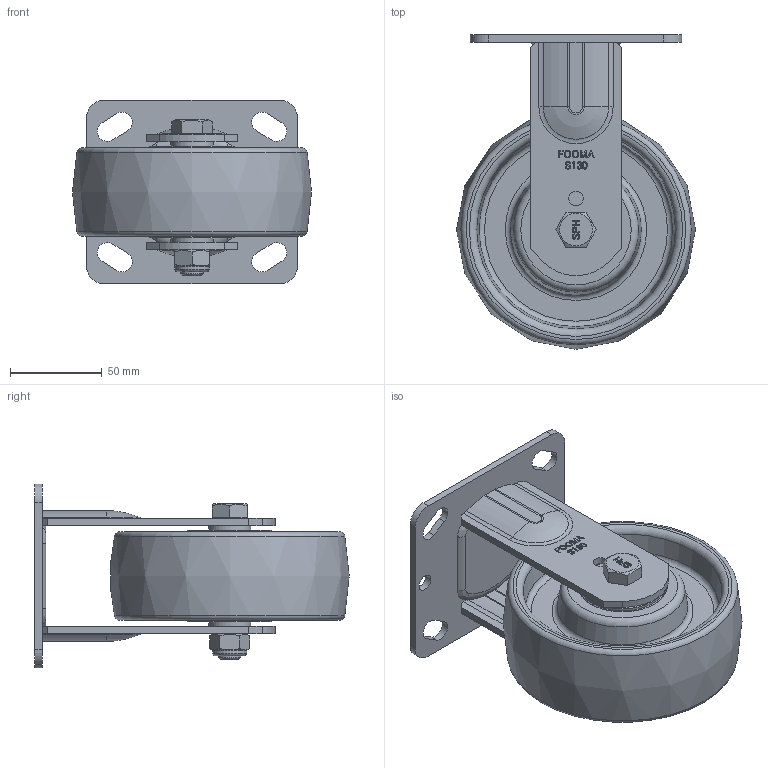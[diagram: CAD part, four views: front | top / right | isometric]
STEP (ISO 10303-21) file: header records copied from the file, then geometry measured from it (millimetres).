
FILE_DESCRIPTION(/* description */ (''),/* implementation_level */ '2;1');
FILE_NAME(/* name */ '\\192.168.10.38\지덕공유\1.기술연구소\2.연구개발 진행중\124.SPH-Series_중하중_2025.02.11\1.도면\2. 3D\홈페이지용\SPH-130-ARF-NYD.stp',/* time_stamp */ '2026-05-19T07:50:01+09:00',/* author */ ('admin'),/* organization */ ('지덕산업'),/* preprocessor_version */ 'ST-DEVELOPER v18.1',/* originating_system */ 'Autodesk Inventor 2021',/* authorisation */ '');
FILE_SCHEMA (('AUTOMOTIVE_DESIGN { 1 0 10303 214 3 1 1 }'));
Length unit declared in the file: millimetre
Products named in the file (1): SPH-130-ARF-NYD
Bounding box: 130 x 171 x 100 mm (x, y, z)
Volume: 544716.9 mm3; surface area: 108549.6 mm2
Topology: 1 solids, 1 shells, 1038 faces, 2819 edges, 1869 vertices
Faces by surface type: plane 466, bspline 466, cylinder 55, torus 30, cone 17, sphere 4
Full cylindrical faces by diameter (mm): 8 x2, 9 x2, 12 x1, 18 x1, 18.5 x1, 46.001 x2
Entity records: 33637 total; most frequent: CARTESIAN_POINT 10429, ORIENTED_EDGE 5638, DIRECTION 3245, EDGE_CURVE 2819, VERTEX_POINT 1869, LINE 1647, VECTOR 1647, EDGE_LOOP 1142
